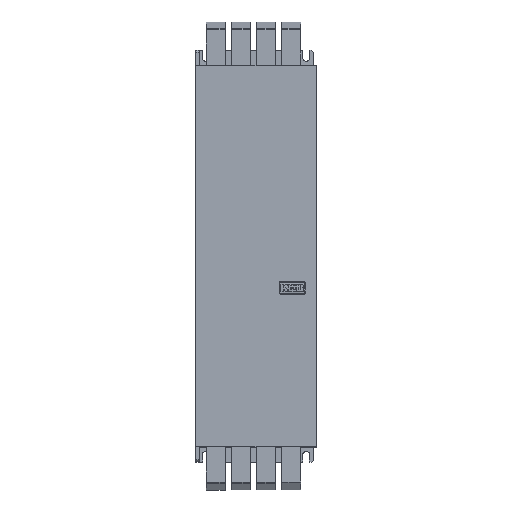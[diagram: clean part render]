
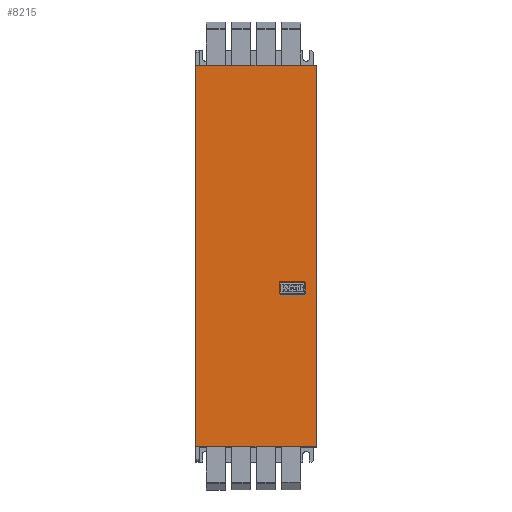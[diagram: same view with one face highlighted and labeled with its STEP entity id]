
A CAD part, top view. The second image highlights one B-rep face of the part: STEP entity #8215.
In plain terms, the highlighted planar face has unit normal (0, 0, 1).
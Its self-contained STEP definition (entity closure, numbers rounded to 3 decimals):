
#14 = DIRECTION ( 'NONE',  ( -1., 0., 0. ) ) ;
#50 = VECTOR ( 'NONE', #1604, 1000. ) ;
#78 = DIRECTION ( 'NONE',  ( 1., 0., 0. ) ) ;
#154 = CARTESIAN_POINT ( 'NONE',  ( 0., -187., 240. ) ) ;
#460 = VERTEX_POINT ( 'NONE', #8181 ) ;
#536 = CARTESIAN_POINT ( 'NONE',  ( 120., 190., 240. ) ) ;
#540 = EDGE_CURVE ( 'NONE', #4444, #8274, #10482, .T. ) ;
#589 = DIRECTION ( 'NONE',  ( 1., 0., 0. ) ) ;
#632 = CARTESIAN_POINT ( 'NONE',  ( 0., -190., 240. ) ) ;
#810 = VERTEX_POINT ( 'NONE', #632 ) ;
#813 = CARTESIAN_POINT ( 'NONE',  ( 108., -27., 240. ) ) ;
#859 = EDGE_CURVE ( 'NONE', #9212, #1551, #4781, .T. ) ;
#965 = CARTESIAN_POINT ( 'NONE',  ( 83., -37., 240. ) ) ;
#1019 = ORIENTED_EDGE ( 'NONE', *, *, #5824, .F. ) ;
#1024 = DIRECTION ( 'NONE',  ( 0., -1., 0. ) ) ;
#1030 = ORIENTED_EDGE ( 'NONE', *, *, #5808, .T. ) ;
#1170 = VERTEX_POINT ( 'NONE', #8692 ) ;
#1343 = CARTESIAN_POINT ( 'NONE',  ( 84., -26., 240. ) ) ;
#1355 = VECTOR ( 'NONE', #2796, 1000. ) ;
#1469 = CARTESIAN_POINT ( 'NONE',  ( 120., 190., 240. ) ) ;
#1551 = VERTEX_POINT ( 'NONE', #1343 ) ;
#1604 = DIRECTION ( 'NONE',  ( 0., -1., 0. ) ) ;
#1676 = CARTESIAN_POINT ( 'NONE',  ( 108., -38., 240. ) ) ;
#1847 = EDGE_CURVE ( 'NONE', #2802, #1170, #10167, .T. ) ;
#1854 = VERTEX_POINT ( 'NONE', #6243 ) ;
#2455 = VECTOR ( 'NONE', #78, 1000. ) ;
#2586 = CARTESIAN_POINT ( 'NONE',  ( 83., -27., 240. ) ) ;
#2621 = VECTOR ( 'NONE', #10274, 1000. ) ;
#2785 = ORIENTED_EDGE ( 'NONE', *, *, #3924, .T. ) ;
#2796 = DIRECTION ( 'NONE',  ( -1., 0., 0. ) ) ;
#2802 = VERTEX_POINT ( 'NONE', #1469 ) ;
#2804 = VECTOR ( 'NONE', #14, 1000. ) ;
#2836 = ORIENTED_EDGE ( 'NONE', *, *, #8392, .T. ) ;
#3167 = LINE ( 'NONE', #10659, #50 ) ;
#3233 = DIRECTION ( 'NONE',  ( -1., 0., 0. ) ) ;
#3414 = EDGE_LOOP ( 'NONE', ( #9228, #1019, #4760, #7379 ) ) ;
#3599 = DIRECTION ( 'NONE',  ( -1., 0., 0. ) ) ;
#3853 = CARTESIAN_POINT ( 'NONE',  ( 108., -37., 240. ) ) ;
#3924 = EDGE_CURVE ( 'NONE', #8117, #8089, #4801, .T. ) ;
#4088 = DIRECTION ( 'NONE',  ( 0., 0., -1. ) ) ;
#4183 = AXIS2_PLACEMENT_3D ( 'NONE', #9210, #5119, #1024 ) ;
#4371 = LINE ( 'NONE', #7449, #2455 ) ;
#4403 = LINE ( 'NONE', #154, #7617 ) ;
#4444 = VERTEX_POINT ( 'NONE', #7538 ) ;
#4515 = VECTOR ( 'NONE', #5851, 1000. ) ;
#4760 = ORIENTED_EDGE ( 'NONE', *, *, #8199, .F. ) ;
#4781 = CIRCLE ( 'NONE', #10461, 1. ) ;
#4801 = LINE ( 'NONE', #1676, #10148 ) ;
#4891 = CARTESIAN_POINT ( 'NONE',  ( 84., -27., 240. ) ) ;
#4906 = FACE_BOUND ( 'NONE', #5900, .T. ) ;
#4957 = CARTESIAN_POINT ( 'NONE',  ( 120., -190., 240. ) ) ;
#5119 = DIRECTION ( 'NONE',  ( 0., 0., -1. ) ) ;
#5655 = EDGE_CURVE ( 'NONE', #2802, #6786, #7049, .T. ) ;
#5760 = EDGE_CURVE ( 'NONE', #8274, #460, #3167, .T. ) ;
#5763 = DIRECTION ( 'NONE',  ( 1., 0., 0. ) ) ;
#5808 = EDGE_CURVE ( 'NONE', #1854, #9212, #7321, .T. ) ;
#5824 = EDGE_CURVE ( 'NONE', #810, #1170, #4403, .T. ) ;
#5851 = DIRECTION ( 'NONE',  ( 0., 1., 0. ) ) ;
#5900 = EDGE_LOOP ( 'NONE', ( #6077, #9244, #6700, #2836, #2785, #9054, #1030, #5969 ) ) ;
#5922 = FACE_OUTER_BOUND ( 'NONE', #3414, .T. ) ;
#5969 = ORIENTED_EDGE ( 'NONE', *, *, #859, .T. ) ;
#6077 = ORIENTED_EDGE ( 'NONE', *, *, #10391, .T. ) ;
#6243 = CARTESIAN_POINT ( 'NONE',  ( 83., -37., 240. ) ) ;
#6244 = CIRCLE ( 'NONE', #7626, 1. ) ;
#6517 = CARTESIAN_POINT ( 'NONE',  ( 84., -38., 240. ) ) ;
#6656 = EDGE_CURVE ( 'NONE', #8089, #1854, #7288, .T. ) ;
#6700 = ORIENTED_EDGE ( 'NONE', *, *, #5760, .T. ) ;
#6786 = VERTEX_POINT ( 'NONE', #7914 ) ;
#6889 = CARTESIAN_POINT ( 'NONE',  ( 109., -27., 240. ) ) ;
#7049 = LINE ( 'NONE', #7107, #2621 ) ;
#7107 = CARTESIAN_POINT ( 'NONE',  ( 120., 190., 240. ) ) ;
#7148 = DIRECTION ( 'NONE',  ( 0., 0., -1. ) ) ;
#7288 = CIRCLE ( 'NONE', #9518, 1. ) ;
#7321 = LINE ( 'NONE', #965, #4515 ) ;
#7379 = ORIENTED_EDGE ( 'NONE', *, *, #5655, .F. ) ;
#7449 = CARTESIAN_POINT ( 'NONE',  ( 108., -26., 240. ) ) ;
#7538 = CARTESIAN_POINT ( 'NONE',  ( 108., -26., 240. ) ) ;
#7583 = DIRECTION ( 'NONE',  ( 0., 1., 0. ) ) ;
#7617 = VECTOR ( 'NONE', #7583, 1000. ) ;
#7626 = AXIS2_PLACEMENT_3D ( 'NONE', #3853, #7148, #3599 ) ;
#7663 = CARTESIAN_POINT ( 'NONE',  ( 84., -37., 240. ) ) ;
#7914 = CARTESIAN_POINT ( 'NONE',  ( 120., -190., 240. ) ) ;
#7963 = DIRECTION ( 'NONE',  ( 0., 0., -1. ) ) ;
#8089 = VERTEX_POINT ( 'NONE', #6517 ) ;
#8117 = VERTEX_POINT ( 'NONE', #9807 ) ;
#8181 = CARTESIAN_POINT ( 'NONE',  ( 109., -37., 240. ) ) ;
#8184 = PLANE ( 'NONE',  #4183 ) ;
#8199 = EDGE_CURVE ( 'NONE', #6786, #810, #8347, .T. ) ;
#8215 = ADVANCED_FACE ( 'NONE', ( #5922, #4906 ), #8184, .F. ) ;
#8274 = VERTEX_POINT ( 'NONE', #6889 ) ;
#8347 = LINE ( 'NONE', #4957, #2804 ) ;
#8392 = EDGE_CURVE ( 'NONE', #460, #8117, #6244, .T. ) ;
#8692 = CARTESIAN_POINT ( 'NONE',  ( 0., 190., 240. ) ) ;
#8750 = AXIS2_PLACEMENT_3D ( 'NONE', #813, #4088, #5763 ) ;
#9054 = ORIENTED_EDGE ( 'NONE', *, *, #6656, .T. ) ;
#9210 = CARTESIAN_POINT ( 'NONE',  ( 120., -187., 240. ) ) ;
#9212 = VERTEX_POINT ( 'NONE', #2586 ) ;
#9228 = ORIENTED_EDGE ( 'NONE', *, *, #1847, .T. ) ;
#9244 = ORIENTED_EDGE ( 'NONE', *, *, #540, .T. ) ;
#9270 = DIRECTION ( 'NONE',  ( 1., 0., 0. ) ) ;
#9518 = AXIS2_PLACEMENT_3D ( 'NONE', #7663, #9876, #9270 ) ;
#9807 = CARTESIAN_POINT ( 'NONE',  ( 108., -38., 240. ) ) ;
#9876 = DIRECTION ( 'NONE',  ( 0., 0., -1. ) ) ;
#10148 = VECTOR ( 'NONE', #3233, 1000. ) ;
#10167 = LINE ( 'NONE', #536, #1355 ) ;
#10274 = DIRECTION ( 'NONE',  ( 0., -1., 0. ) ) ;
#10391 = EDGE_CURVE ( 'NONE', #1551, #4444, #4371, .T. ) ;
#10461 = AXIS2_PLACEMENT_3D ( 'NONE', #4891, #7963, #589 ) ;
#10482 = CIRCLE ( 'NONE', #8750, 1. ) ;
#10659 = CARTESIAN_POINT ( 'NONE',  ( 109., -37., 240. ) ) ;
